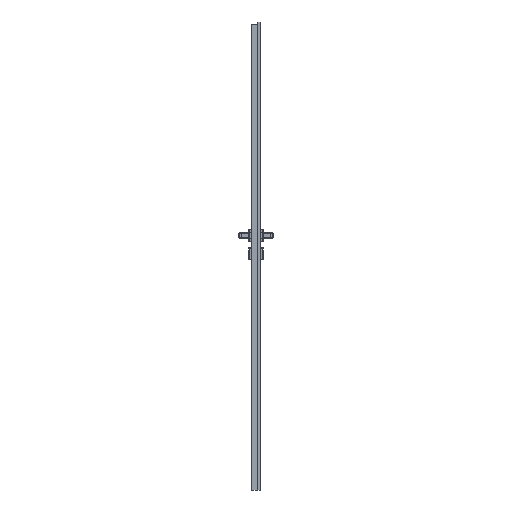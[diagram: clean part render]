
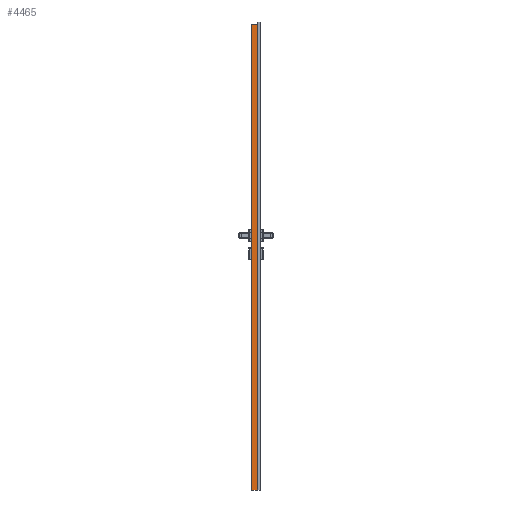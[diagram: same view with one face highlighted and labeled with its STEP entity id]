
A CAD part, left-side view. The second image highlights one B-rep face of the part: STEP entity #4465.
In plain terms, the highlighted planar face has unit normal (-1, 0, 0).
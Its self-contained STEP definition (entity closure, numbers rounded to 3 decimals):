
#2737=CIRCLE('',#34820,1.5);
#4465=ADVANCED_FACE('',(#7201),#5823,.F.);
#5823=PLANE('',#34839);
#7201=FACE_OUTER_BOUND('',#9063,.T.);
#9063=EDGE_LOOP('',(#15811,#15812,#15813,#15814,#15815));
#15811=ORIENTED_EDGE('',*,*,#25460,.T.);
#15812=ORIENTED_EDGE('',*,*,#25487,.T.);
#15813=ORIENTED_EDGE('',*,*,#25488,.T.);
#15814=ORIENTED_EDGE('',*,*,#25489,.T.);
#15815=ORIENTED_EDGE('',*,*,#25485,.F.);
#21474=VERTEX_POINT('',#54759);
#21475=VERTEX_POINT('',#54761);
#21492=VERTEX_POINT('',#54826);
#21493=VERTEX_POINT('',#54830);
#21494=VERTEX_POINT('',#54832);
#25460=EDGE_CURVE('',#21475,#21474,#2737,.T.);
#25485=EDGE_CURVE('',#21475,#21492,#29097,.T.);
#25487=EDGE_CURVE('',#21474,#21493,#29098,.T.);
#25488=EDGE_CURVE('',#21493,#21494,#29099,.T.);
#25489=EDGE_CURVE('',#21494,#21492,#29100,.T.);
#29097=LINE('',#54825,#31931);
#29098=LINE('',#54829,#31932);
#29099=LINE('',#54831,#31933);
#29100=LINE('',#54833,#31934);
#31931=VECTOR('',#41906,1.);
#31932=VECTOR('',#41911,1.);
#31933=VECTOR('',#41912,1.);
#31934=VECTOR('',#41913,1.);
#34820=AXIS2_PLACEMENT_3D('',#54760,#41857,#41858);
#34839=AXIS2_PLACEMENT_3D('',#54834,#41914,#41915);
#41857=DIRECTION('',(1.,0.,0.));
#41858=DIRECTION('',(0.,0.,-1.));
#41906=DIRECTION('',(0.,0.,-1.));
#41911=DIRECTION('',(0.,1.,0.));
#41912=DIRECTION('',(0.,0.,-1.));
#41913=DIRECTION('',(0.,-1.,0.));
#41914=DIRECTION('',(1.,0.,0.));
#41915=DIRECTION('',(0.,0.,-1.));
#54759=CARTESIAN_POINT('',(-309.,-24.2,2017.));
#54760=CARTESIAN_POINT('',(-309.,-24.2,2018.5));
#54761=CARTESIAN_POINT('',(-309.,-24.65,2017.069));
#54825=CARTESIAN_POINT('',(-309.,-24.65,0.));
#54826=CARTESIAN_POINT('',(-309.,-24.65,0.));
#54829=CARTESIAN_POINT('',(-309.,-24.65,2017.));
#54830=CARTESIAN_POINT('',(-309.,-1.65,2017.));
#54831=CARTESIAN_POINT('',(-309.,-1.65,0.));
#54832=CARTESIAN_POINT('',(-309.,-1.65,0.));
#54833=CARTESIAN_POINT('',(-309.,-24.65,0.));
#54834=CARTESIAN_POINT('',(-309.,-24.65,0.));
